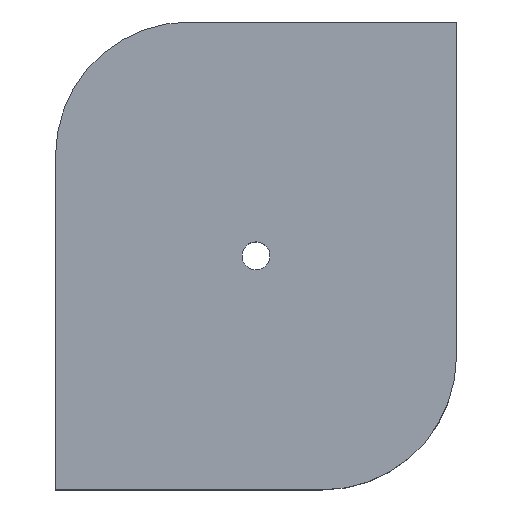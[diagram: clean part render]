
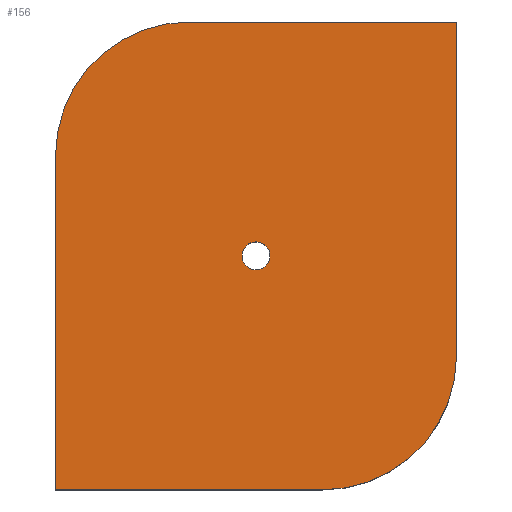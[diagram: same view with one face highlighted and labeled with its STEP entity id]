
A CAD part, top view. The second image highlights one B-rep face of the part: STEP entity #156.
In plain terms, the highlighted planar face has unit normal (0, 0, 1).
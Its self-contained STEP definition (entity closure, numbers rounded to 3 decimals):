
#63=CARTESIAN_POINT('Vertex',(56.325,72.008,35.)) ;
#77=CARTESIAN_POINT('Vertex',(63.675,67.992,35.)) ;
#80=CARTESIAN_POINT('Axis2P3D Location',(60.,70.,35.)) ;
#92=CARTESIAN_POINT('Axis2P3D Location',(0.,0.,35.)) ;
#97=CARTESIAN_POINT('Line Origine',(0.,50.,35.)) ;
#101=CARTESIAN_POINT('Vertex',(0.,100.,35.)) ;
#103=CARTESIAN_POINT('Vertex',(0.,0.,35.)) ;
#106=CARTESIAN_POINT('Line Origine',(40.,0.,35.)) ;
#110=CARTESIAN_POINT('Vertex',(80.,0.,35.)) ;
#113=CARTESIAN_POINT('Axis2P3D Location',(80.,40.,35.)) ;
#117=CARTESIAN_POINT('Vertex',(120.,40.,35.)) ;
#120=CARTESIAN_POINT('Line Origine',(120.,90.,35.)) ;
#124=CARTESIAN_POINT('Vertex',(120.,140.,35.)) ;
#127=CARTESIAN_POINT('Line Origine',(80.,140.,35.)) ;
#131=CARTESIAN_POINT('Vertex',(40.,140.,35.)) ;
#134=CARTESIAN_POINT('Axis2P3D Location',(40.,100.,35.)) ;
#147=CARTESIAN_POINT('Axis2P3D Location',(60.,70.,35.)) ;
#81=DIRECTION('Axis2P3D Direction',(0.,-0.,-1.)) ;
#93=DIRECTION('Axis2P3D Direction',(0.,0.,1.)) ;
#94=DIRECTION('Axis2P3D XDirection',(1.,0.,0.)) ;
#98=DIRECTION('Vector Direction',(0.,-1.,0.)) ;
#107=DIRECTION('Vector Direction',(1.,0.,0.)) ;
#114=DIRECTION('Axis2P3D Direction',(0.,0.,1.)) ;
#121=DIRECTION('Vector Direction',(0.,1.,0.)) ;
#128=DIRECTION('Vector Direction',(-1.,0.,0.)) ;
#135=DIRECTION('Axis2P3D Direction',(0.,0.,1.)) ;
#148=DIRECTION('Axis2P3D Direction',(0.,0.,1.)) ;
#82=AXIS2_PLACEMENT_3D('Circle Axis2P3D',#80,#81,$) ;
#95=AXIS2_PLACEMENT_3D('Plane Axis2P3D',#92,#93,#94) ;
#115=AXIS2_PLACEMENT_3D('Circle Axis2P3D',#113,#114,$) ;
#136=AXIS2_PLACEMENT_3D('Circle Axis2P3D',#134,#135,$) ;
#149=AXIS2_PLACEMENT_3D('Circle Axis2P3D',#147,#148,$) ;
#140=ORIENTED_EDGE('',*,*,#105,.T.) ;
#141=ORIENTED_EDGE('',*,*,#112,.T.) ;
#142=ORIENTED_EDGE('',*,*,#119,.F.) ;
#143=ORIENTED_EDGE('',*,*,#126,.T.) ;
#144=ORIENTED_EDGE('',*,*,#133,.T.) ;
#145=ORIENTED_EDGE('',*,*,#138,.F.) ;
#153=ORIENTED_EDGE('',*,*,#151,.F.) ;
#154=ORIENTED_EDGE('',*,*,#84,.F.) ;
#155=FACE_BOUND('',#152,.T.) ;
#99=VECTOR('Line Direction',#98,1.) ;
#108=VECTOR('Line Direction',#107,1.) ;
#122=VECTOR('Line Direction',#121,1.) ;
#129=VECTOR('Line Direction',#128,1.) ;
#156=ADVANCED_FACE('PartBody',(#146,#155),#96,.T.) ;
#83=CIRCLE('generated circle',#82,4.188) ;
#116=CIRCLE('generated circle',#115,40.) ;
#137=CIRCLE('generated circle',#136,40.) ;
#150=CIRCLE('generated circle',#149,4.188) ;
#84=EDGE_CURVE('',#78,#64,#83,.F.) ;
#105=EDGE_CURVE('',#102,#104,#100,.T.) ;
#112=EDGE_CURVE('',#104,#111,#109,.T.) ;
#119=EDGE_CURVE('',#118,#111,#116,.F.) ;
#126=EDGE_CURVE('',#118,#125,#123,.T.) ;
#133=EDGE_CURVE('',#125,#132,#130,.T.) ;
#138=EDGE_CURVE('',#102,#132,#137,.F.) ;
#151=EDGE_CURVE('',#64,#78,#150,.T.) ;
#139=EDGE_LOOP('',(#140,#141,#142,#143,#144,#145)) ;
#152=EDGE_LOOP('',(#153,#154)) ;
#146=FACE_OUTER_BOUND('',#139,.T.) ;
#100=LINE('Line',#97,#99) ;
#109=LINE('Line',#106,#108) ;
#123=LINE('Line',#120,#122) ;
#130=LINE('Line',#127,#129) ;
#96=PLANE('',#95) ;
#64=VERTEX_POINT('',#63) ;
#78=VERTEX_POINT('',#77) ;
#102=VERTEX_POINT('',#101) ;
#104=VERTEX_POINT('',#103) ;
#111=VERTEX_POINT('',#110) ;
#118=VERTEX_POINT('',#117) ;
#125=VERTEX_POINT('',#124) ;
#132=VERTEX_POINT('',#131) ;
